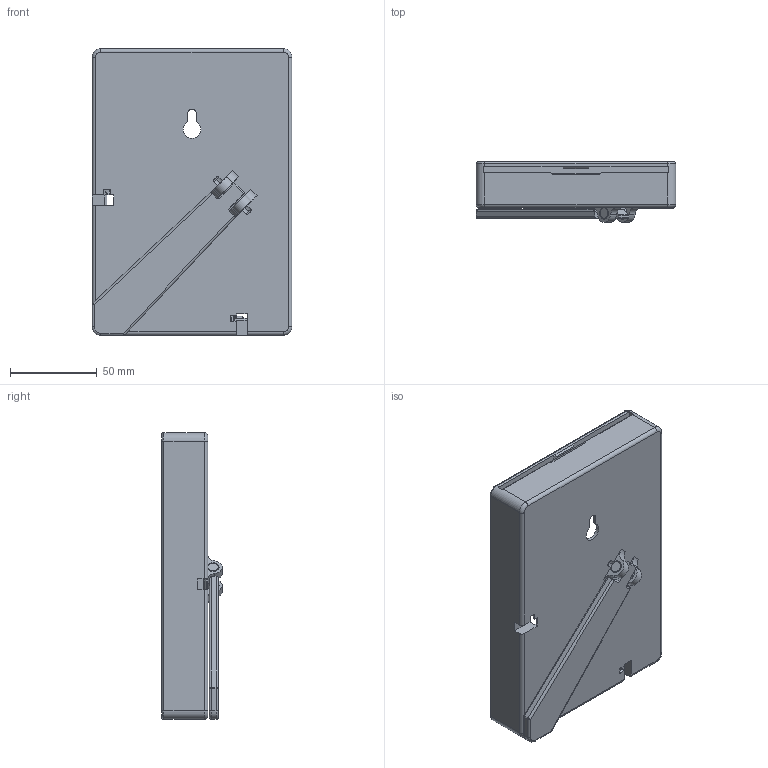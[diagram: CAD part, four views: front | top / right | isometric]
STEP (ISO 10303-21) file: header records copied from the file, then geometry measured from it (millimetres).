
FILE_DESCRIPTION((''),'2;1');
FILE_NAME('2X3V2','2025-02-14T18:21:16',('qinghui.yi'),(''),'CREO PARAMETRIC BY PTC INC, 2019164','CREO PARAMETRIC BY PTC INC, 2019164','');
FILE_SCHEMA(('CONFIG_CONTROL_DESIGN','SHAPE_APPEARANCE_LAYERS_GROUPS'));
Length unit declared in the file: millimetre
Products named in the file (1): 2X3V2
Bounding box: 115 x 34.7 x 165 mm (x, y, z)
Volume: 160344.4 mm3; surface area: 75647.3 mm2
Topology: 2 solids, 5 shells, 296 faces, 828 edges, 528 vertices
Faces by surface type: plane 200, cylinder 73, torus 12, bspline 5, cone 4, sphere 2
Entity records: 10868 total; most frequent: CARTESIAN_POINT 2893, ORIENTED_EDGE 1656, DIRECTION 1501, EDGE_CURVE 828, VECTOR 621, LINE 621, VERTEX_POINT 528, AXIS2_PLACEMENT_3D 440
